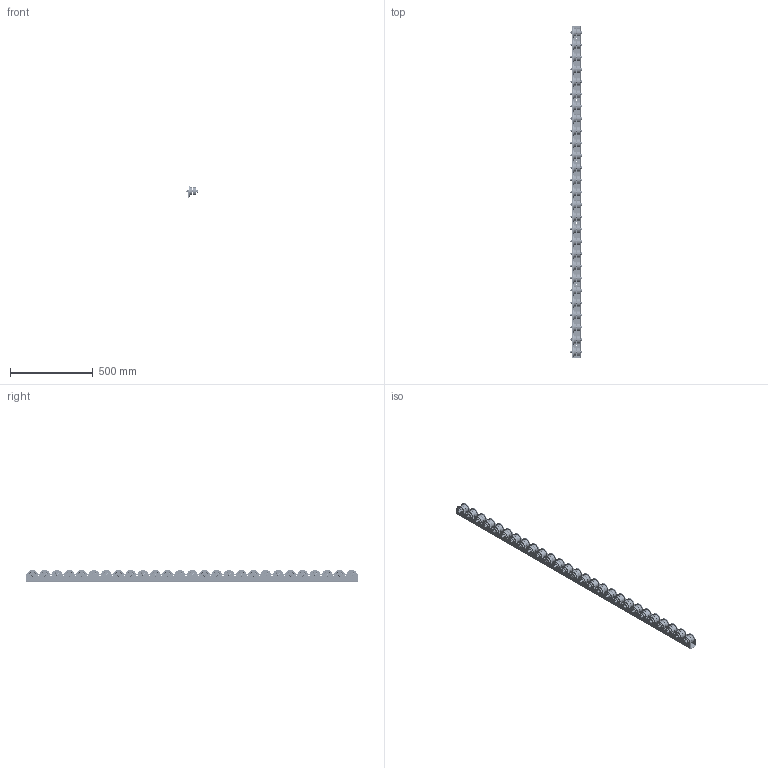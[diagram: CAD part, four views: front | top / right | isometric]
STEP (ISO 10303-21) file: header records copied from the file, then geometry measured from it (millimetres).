
FILE_DESCRIPTION( ( 'Unknown' ), '1' );
FILE_NAME( 'D:/Construktor/Listwy rolkowe 2015/Listwa T643K/Listwa T643K.stp', 'Unknown', ( 'Unknown' ), ( 'Unknown' ), 'PSStep 17.0.49', 'Unknown', ' ' );
FILE_SCHEMA( ( 'AUTOMOTIVE_DESIGN { 1 0 10303 214 1 1 1 1 }' ) );
Length unit declared in the file: millimetre
Products named in the file (5): Assem1; DIN_931_M8x35; Nut_DIN_980_M_M8_v10.50; Ceownik T643K; 620K rolka
Assembly tree (109 placements, depth 2):
  Assem1
    DIN_931_M8x35  x27
    Nut_DIN_980_M_M8_v10.50  x27
    Ceownik T643K
    620K rolka  x54
Bounding box: 70.3 x 2000 x 72.99 mm (x, y, z)
Volume: 2356887.4 mm3; surface area: 1352954.7 mm2
Topology: 109 solids, 109 shells, 3015 faces, 6183 edges, 3926 vertices
Faces by surface type: plane 1090, cylinder 818, torus 702, cone 405
Full cylindrical faces by diameter (mm): 6.466 x27, 6.647 x27, 6.697 x27, 8 x54, 8.2 x112, 8.3 x54, 8.4 x27, 11.63 x27, 12.5 x27, 12.6 x108, 29.5 x108, 43.6 x108, 48 x54, 66 x54
Entity records: 8758 total; most frequent: DIRECTION 1264, CARTESIAN_POINT 1260, ORIENTED_EDGE 754, AXIS2_PLACEMENT_3D 609, EDGE_LOOP 592, EDGE_CURVE 377, FACE_OUTER_BOUND 348, VERTEX_POINT 341
